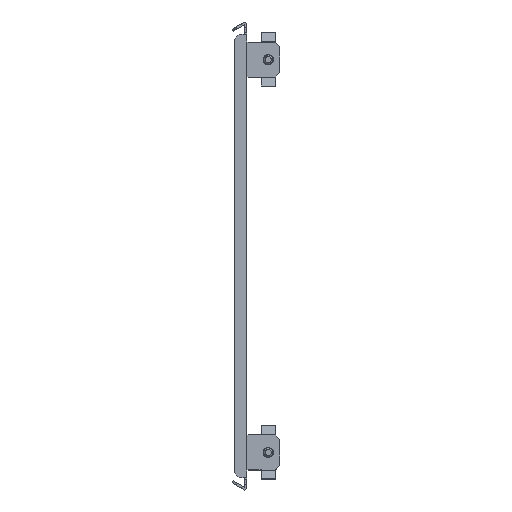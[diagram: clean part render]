
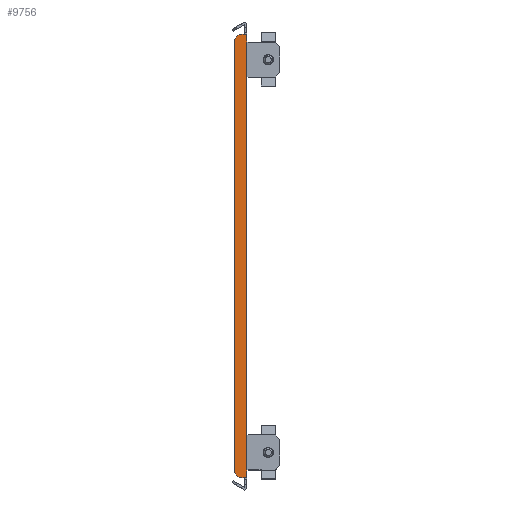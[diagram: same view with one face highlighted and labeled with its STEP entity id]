
A CAD part, front view. The second image highlights one B-rep face of the part: STEP entity #9756.
In plain terms, the highlighted planar face has unit normal (0, -1, 0).
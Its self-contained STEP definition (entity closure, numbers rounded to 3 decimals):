
#162 = CARTESIAN_POINT ( 'NONE',  ( -5., -153., -140.897 ) ) ;
#175 = ORIENTED_EDGE ( 'NONE', *, *, #5013, .T. ) ;
#287 = CARTESIAN_POINT ( 'NONE',  ( 0., -153., 113.75 ) ) ;
#391 = EDGE_CURVE ( 'NONE', #17106, #3887, #5413, .T. ) ;
#614 = VECTOR ( 'NONE', #15052, 1000. ) ;
#731 = LINE ( 'NONE', #19826, #614 ) ;
#940 = VECTOR ( 'NONE', #9486, 1000. ) ;
#1093 = LINE ( 'NONE', #19985, #2990 ) ;
#1119 = PLANE ( 'NONE',  #13899 ) ;
#1132 = VERTEX_POINT ( 'NONE', #14654 ) ;
#1699 = CARTESIAN_POINT ( 'NONE',  ( 0., -153., 0. ) ) ;
#1708 = VERTEX_POINT ( 'NONE', #20093 ) ;
#1726 = CARTESIAN_POINT ( 'NONE',  ( 0., -153., 140.897 ) ) ;
#1771 = LINE ( 'NONE', #18626, #5795 ) ;
#1956 = CARTESIAN_POINT ( 'NONE',  ( 0., -153., 140.897 ) ) ;
#2177 = ORIENTED_EDGE ( 'NONE', *, *, #9878, .T. ) ;
#2271 = ORIENTED_EDGE ( 'NONE', *, *, #7980, .T. ) ;
#2480 = VERTEX_POINT ( 'NONE', #3271 ) ;
#2882 = FACE_OUTER_BOUND ( 'NONE', #8951, .T. ) ;
#2990 = VECTOR ( 'NONE', #13979, 1000. ) ;
#3132 = VECTOR ( 'NONE', #4814, 1000. ) ;
#3271 = CARTESIAN_POINT ( 'NONE',  ( -8., -153., 137.897 ) ) ;
#3887 = VERTEX_POINT ( 'NONE', #162 ) ;
#4186 = CARTESIAN_POINT ( 'NONE',  ( -2.5, -153., 140.897 ) ) ;
#4814 = DIRECTION ( 'NONE',  ( -1., 0., 0. ) ) ;
#5013 = EDGE_CURVE ( 'NONE', #1132, #1708, #1093, .T. ) ;
#5413 = LINE ( 'NONE', #10101, #10574 ) ;
#5624 = ORIENTED_EDGE ( 'NONE', *, *, #15024, .T. ) ;
#5679 = DIRECTION ( 'NONE',  ( 0., 0., 1. ) ) ;
#5795 = VECTOR ( 'NONE', #9537, 1000. ) ;
#5995 = EDGE_CURVE ( 'NONE', #10046, #11332, #6555, .T. ) ;
#6328 = CARTESIAN_POINT ( 'NONE',  ( 0., -153., 0. ) ) ;
#6555 = LINE ( 'NONE', #1956, #14187 ) ;
#6599 = DIRECTION ( 'NONE',  ( 0., 0., 1. ) ) ;
#6704 = EDGE_CURVE ( 'NONE', #1708, #10813, #12730, .T. ) ;
#6858 = EDGE_CURVE ( 'NONE', #12433, #18921, #9469, .T. ) ;
#7208 = LINE ( 'NONE', #13424, #15603 ) ;
#7980 = EDGE_CURVE ( 'NONE', #17358, #2480, #1771, .T. ) ;
#8025 = VECTOR ( 'NONE', #16739, 1000. ) ;
#8132 = LINE ( 'NONE', #12814, #15906 ) ;
#8558 = ORIENTED_EDGE ( 'NONE', *, *, #5995, .F. ) ;
#8951 = EDGE_LOOP ( 'NONE', ( #9681, #18801, #175, #18652, #5624, #10825, #19335, #8558, #2177, #2271, #10993, #14621 ) ) ;
#8996 = VECTOR ( 'NONE', #15712, 1000. ) ;
#9200 = CARTESIAN_POINT ( 'NONE',  ( 0., -153., 0. ) ) ;
#9469 = LINE ( 'NONE', #1699, #8996 ) ;
#9486 = DIRECTION ( 'NONE',  ( 0., 0., 1. ) ) ;
#9537 = DIRECTION ( 'NONE',  ( -0.707, 0., -0.707 ) ) ;
#9638 = VECTOR ( 'NONE', #6599, 1000. ) ;
#9671 = CARTESIAN_POINT ( 'NONE',  ( 0., -153., 0. ) ) ;
#9681 = ORIENTED_EDGE ( 'NONE', *, *, #12044, .T. ) ;
#9756 = ADVANCED_FACE ( 'NONE', ( #2882 ), #1119, .F. ) ;
#9878 = EDGE_CURVE ( 'NONE', #10046, #17358, #12562, .T. ) ;
#10046 = VERTEX_POINT ( 'NONE', #4186 ) ;
#10101 = CARTESIAN_POINT ( 'NONE',  ( -72.948, -153., -72.948 ) ) ;
#10289 = CARTESIAN_POINT ( 'NONE',  ( 0., -153., -140.897 ) ) ;
#10574 = VECTOR ( 'NONE', #11642, 1000. ) ;
#10813 = VERTEX_POINT ( 'NONE', #14673 ) ;
#10825 = ORIENTED_EDGE ( 'NONE', *, *, #6858, .T. ) ;
#10993 = ORIENTED_EDGE ( 'NONE', *, *, #16738, .T. ) ;
#11332 = VERTEX_POINT ( 'NONE', #18403 ) ;
#11642 = DIRECTION ( 'NONE',  ( 0.707, 0., -0.707 ) ) ;
#11904 = DIRECTION ( 'NONE',  ( 0., 0., -1. ) ) ;
#12044 = EDGE_CURVE ( 'NONE', #3887, #17212, #18038, .T. ) ;
#12056 = CARTESIAN_POINT ( 'NONE',  ( -2.5, -153., -140.897 ) ) ;
#12433 = VERTEX_POINT ( 'NONE', #287 ) ;
#12453 = CARTESIAN_POINT ( 'NONE',  ( -5., -153., 140.897 ) ) ;
#12562 = LINE ( 'NONE', #1726, #3132 ) ;
#12730 = LINE ( 'NONE', #9671, #9638 ) ;
#12814 = CARTESIAN_POINT ( 'NONE',  ( -8., -153., 0. ) ) ;
#12878 = DIRECTION ( 'NONE',  ( 1., 0., 0. ) ) ;
#13184 = CARTESIAN_POINT ( 'NONE',  ( -8., -153., -137.897 ) ) ;
#13424 = CARTESIAN_POINT ( 'NONE',  ( 0., -153., 0. ) ) ;
#13593 = DIRECTION ( 'NONE',  ( 0., 1., 0. ) ) ;
#13899 = AXIS2_PLACEMENT_3D ( 'NONE', #9200, #13593, #19813 ) ;
#13979 = DIRECTION ( 'NONE',  ( 0., 0., 1. ) ) ;
#14187 = VECTOR ( 'NONE', #12878, 1000. ) ;
#14329 = EDGE_CURVE ( 'NONE', #17212, #1132, #731, .T. ) ;
#14392 = LINE ( 'NONE', #6328, #940 ) ;
#14621 = ORIENTED_EDGE ( 'NONE', *, *, #391, .T. ) ;
#14654 = CARTESIAN_POINT ( 'NONE',  ( 0., -153., -140.897 ) ) ;
#14673 = CARTESIAN_POINT ( 'NONE',  ( 0., -153., -113.75 ) ) ;
#15024 = EDGE_CURVE ( 'NONE', #10813, #12433, #14392, .T. ) ;
#15052 = DIRECTION ( 'NONE',  ( 1., 0., 0. ) ) ;
#15603 = VECTOR ( 'NONE', #5679, 1000. ) ;
#15712 = DIRECTION ( 'NONE',  ( 0., 0., 1. ) ) ;
#15906 = VECTOR ( 'NONE', #11904, 1000. ) ;
#16534 = CARTESIAN_POINT ( 'NONE',  ( 0., -153., 136.095 ) ) ;
#16738 = EDGE_CURVE ( 'NONE', #2480, #17106, #8132, .T. ) ;
#16739 = DIRECTION ( 'NONE',  ( 1., 0., 0. ) ) ;
#16883 = EDGE_CURVE ( 'NONE', #18921, #11332, #7208, .T. ) ;
#17106 = VERTEX_POINT ( 'NONE', #13184 ) ;
#17212 = VERTEX_POINT ( 'NONE', #12056 ) ;
#17358 = VERTEX_POINT ( 'NONE', #12453 ) ;
#18038 = LINE ( 'NONE', #10289, #8025 ) ;
#18403 = CARTESIAN_POINT ( 'NONE',  ( 0., -153., 140.897 ) ) ;
#18626 = CARTESIAN_POINT ( 'NONE',  ( -72.948, -153., 72.948 ) ) ;
#18652 = ORIENTED_EDGE ( 'NONE', *, *, #6704, .T. ) ;
#18801 = ORIENTED_EDGE ( 'NONE', *, *, #14329, .T. ) ;
#18921 = VERTEX_POINT ( 'NONE', #16534 ) ;
#19335 = ORIENTED_EDGE ( 'NONE', *, *, #16883, .T. ) ;
#19813 = DIRECTION ( 'NONE',  ( 1., 0., 0. ) ) ;
#19826 = CARTESIAN_POINT ( 'NONE',  ( -2.5, -153., -140.897 ) ) ;
#19985 = CARTESIAN_POINT ( 'NONE',  ( 0., -153., 0. ) ) ;
#20093 = CARTESIAN_POINT ( 'NONE',  ( 0., -153., -136.095 ) ) ;
